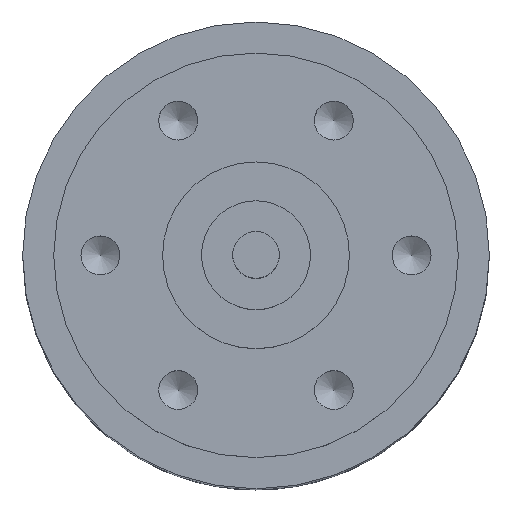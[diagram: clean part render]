
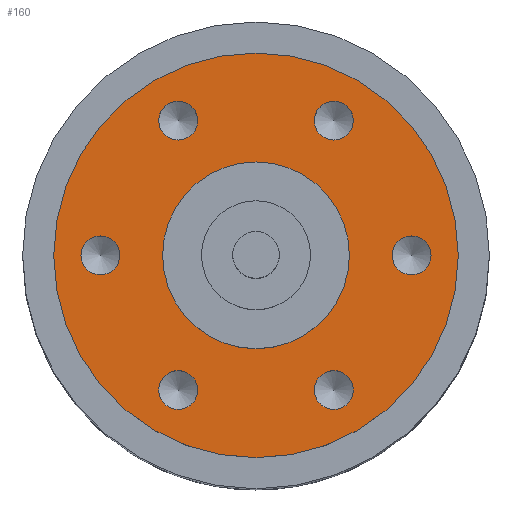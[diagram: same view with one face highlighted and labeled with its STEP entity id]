
A CAD part, top view. The second image highlights one B-rep face of the part: STEP entity #160.
In plain terms, the highlighted planar face has unit normal (0, 0, 1).
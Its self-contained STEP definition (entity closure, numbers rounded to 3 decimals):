
#160=ADVANCED_FACE('',(#245,#246,#247,#248,#249,#250,#251,#252),#201,.T.);
#201=PLANE('',#857);
#245=FACE_BOUND('',#312,.T.);
#246=FACE_BOUND('',#313,.T.);
#247=FACE_BOUND('',#314,.T.);
#248=FACE_BOUND('',#315,.T.);
#249=FACE_BOUND('',#316,.T.);
#250=FACE_BOUND('',#317,.T.);
#251=FACE_BOUND('',#318,.T.);
#252=FACE_BOUND('',#319,.T.);
#312=EDGE_LOOP('',(#513));
#313=EDGE_LOOP('',(#514));
#314=EDGE_LOOP('',(#515));
#315=EDGE_LOOP('',(#516));
#316=EDGE_LOOP('',(#517));
#317=EDGE_LOOP('',(#518));
#318=EDGE_LOOP('',(#519));
#319=EDGE_LOOP('',(#520));
#513=ORIENTED_EDGE('',*,*,#738,.T.);
#514=ORIENTED_EDGE('',*,*,#739,.T.);
#515=ORIENTED_EDGE('',*,*,#740,.T.);
#516=ORIENTED_EDGE('',*,*,#741,.T.);
#517=ORIENTED_EDGE('',*,*,#742,.T.);
#518=ORIENTED_EDGE('',*,*,#743,.T.);
#519=ORIENTED_EDGE('',*,*,#744,.T.);
#520=ORIENTED_EDGE('',*,*,#737,.F.);
#663=VERTEX_POINT('',#1214);
#664=VERTEX_POINT('',#1217);
#665=VERTEX_POINT('',#1219);
#666=VERTEX_POINT('',#1221);
#667=VERTEX_POINT('',#1223);
#668=VERTEX_POINT('',#1225);
#669=VERTEX_POINT('',#1227);
#670=VERTEX_POINT('',#1229);
#737=EDGE_CURVE('',#663,#663,#797,.T.);
#738=EDGE_CURVE('',#664,#664,#798,.T.);
#739=EDGE_CURVE('',#665,#665,#799,.T.);
#740=EDGE_CURVE('',#666,#666,#800,.T.);
#741=EDGE_CURVE('',#667,#667,#801,.T.);
#742=EDGE_CURVE('',#668,#668,#802,.T.);
#743=EDGE_CURVE('',#669,#669,#803,.T.);
#744=EDGE_CURVE('',#670,#670,#804,.T.);
#797=CIRCLE('',#848,3.);
#798=CIRCLE('',#850,0.625);
#799=CIRCLE('',#851,0.625);
#800=CIRCLE('',#852,0.625);
#801=CIRCLE('',#853,0.625);
#802=CIRCLE('',#854,0.625);
#803=CIRCLE('',#855,0.625);
#804=CIRCLE('',#856,6.5);
#848=AXIS2_PLACEMENT_3D('',#1213,#990,#991);
#850=AXIS2_PLACEMENT_3D('',#1216,#994,#995);
#851=AXIS2_PLACEMENT_3D('',#1218,#996,#997);
#852=AXIS2_PLACEMENT_3D('',#1220,#998,#999);
#853=AXIS2_PLACEMENT_3D('',#1222,#1000,#1001);
#854=AXIS2_PLACEMENT_3D('',#1224,#1002,#1003);
#855=AXIS2_PLACEMENT_3D('',#1226,#1004,#1005);
#856=AXIS2_PLACEMENT_3D('',#1228,#1006,#1007);
#857=AXIS2_PLACEMENT_3D('',#1230,#1008,#1009);
#990=DIRECTION('',(0.,0.,1.));
#991=DIRECTION('',(1.,0.,0.));
#994=DIRECTION('',(0.,0.,-1.));
#995=DIRECTION('',(-0.5,0.866,0.));
#996=DIRECTION('',(0.,0.,-1.));
#997=DIRECTION('',(0.5,0.866,0.));
#998=DIRECTION('',(0.,0.,-1.));
#999=DIRECTION('',(1.,0.,0.));
#1000=DIRECTION('',(0.,0.,-1.));
#1001=DIRECTION('',(0.5,-0.866,0.));
#1002=DIRECTION('',(0.,0.,-1.));
#1003=DIRECTION('',(-0.5,-0.866,0.));
#1004=DIRECTION('',(0.,0.,-1.));
#1005=DIRECTION('',(-1.,0.,0.));
#1006=DIRECTION('',(0.,0.,1.));
#1007=DIRECTION('',(1.,0.,0.));
#1008=DIRECTION('',(0.,0.,1.));
#1009=DIRECTION('',(1.,0.,0.));
#1213=CARTESIAN_POINT('',(0.,0.,23.8));
#1214=CARTESIAN_POINT('',(3.,0.,23.8));
#1216=CARTESIAN_POINT('',(-2.5,4.33,23.8));
#1217=CARTESIAN_POINT('',(-2.812,4.871,23.8));
#1218=CARTESIAN_POINT('',(2.5,4.33,23.8));
#1219=CARTESIAN_POINT('',(2.812,4.871,23.8));
#1220=CARTESIAN_POINT('',(5.,0.,23.8));
#1221=CARTESIAN_POINT('',(5.625,0.,23.8));
#1222=CARTESIAN_POINT('',(2.5,-4.33,23.8));
#1223=CARTESIAN_POINT('',(2.812,-4.871,23.8));
#1224=CARTESIAN_POINT('',(-2.5,-4.33,23.8));
#1225=CARTESIAN_POINT('',(-2.812,-4.871,23.8));
#1226=CARTESIAN_POINT('',(-5.,0.,23.8));
#1227=CARTESIAN_POINT('',(-5.625,0.,23.8));
#1228=CARTESIAN_POINT('',(0.,0.,23.8));
#1229=CARTESIAN_POINT('',(6.5,0.,23.8));
#1230=CARTESIAN_POINT('',(0.,3.,23.8));
